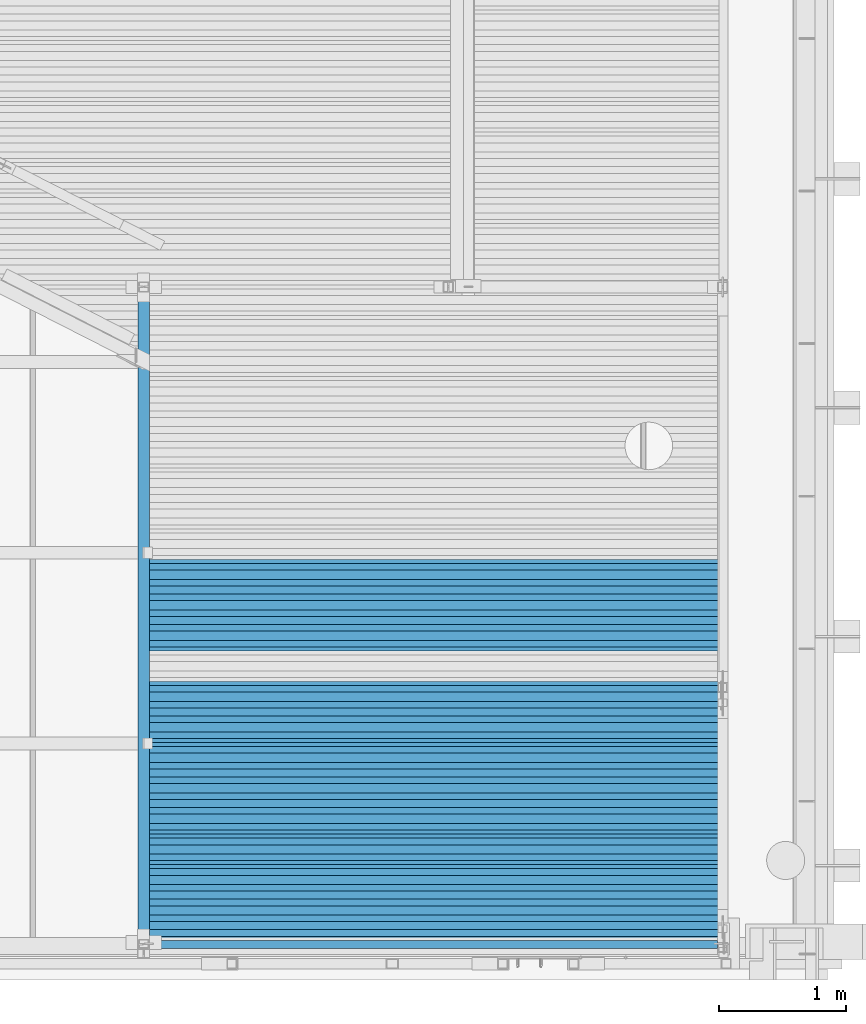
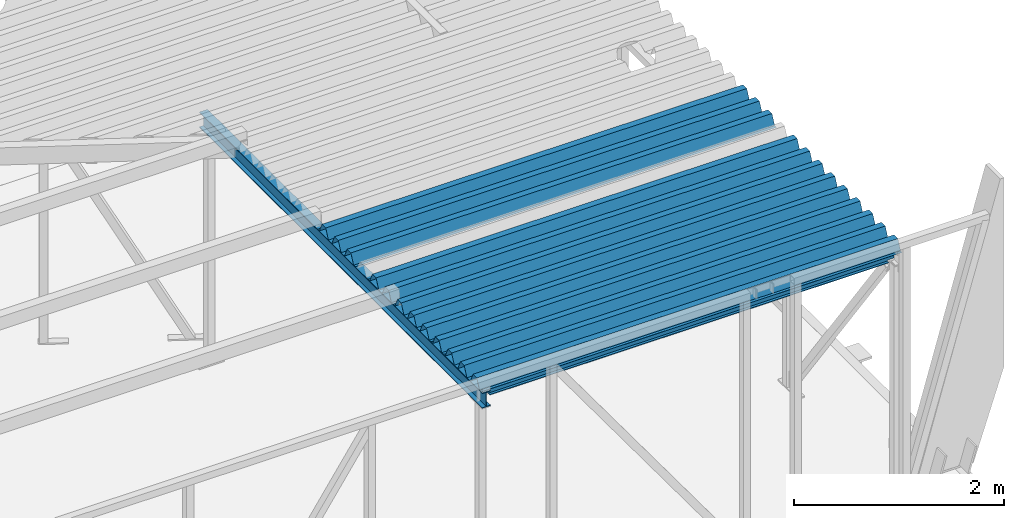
# One storey, part 7 of 30: 7 beams.
"""IFC2X3 building model written with IfcOpenShell, lengths in millimetres."""

from ifc_helpers import new_model, entity, si_unit, converted_unit, derived_unit, direction, frame, origin_with_axes, place, context, subcontext, project, spatial, faceted_brep, material, type_object, element, save


model = new_model("IFC2X3")

# Units and contexts
model_context = context("Model", 3, precision=0.01, world=frame((0.0, 4.29681676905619e-09, 0.0)), true_north=direction((4.01073788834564e-13, 1.0)))
plan_context = context("Plan", 3, precision=0.01, world=frame((0.0, 4.29681676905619e-09, 0.0)), true_north=direction((4.01073788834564e-13, 1.0)))
body_context = subcontext(model_context, "Body", "Model", "MODEL_VIEW")
ifc_project = project(units=[converted_unit("PLANEANGLEUNIT", "DEGREE", entity("IfcPositiveLengthMeasure", 0.0174532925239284), si_unit("PLANEANGLEUNIT", "RADIAN"), dimensions=[0, 0, 0, 0, 0, 0, 0]), si_unit("AREAUNIT", "SQUARE_METRE"), si_unit("LENGTHUNIT", "METRE", prefix="MILLI"), si_unit("MASSUNIT", "GRAM", prefix="KILO"), si_unit("POWERUNIT", "WATT"), si_unit("PRESSUREUNIT", "PASCAL"), si_unit("FORCEUNIT", "NEWTON", prefix="KILO"), si_unit("ELECTRICVOLTAGEUNIT", "VOLT"), si_unit("ELECTRICCURRENTUNIT", "AMPERE"), si_unit("THERMODYNAMICTEMPERATUREUNIT", "DEGREE_CELSIUS"), si_unit("TIMEUNIT", "SECOND"), si_unit("VOLUMEUNIT", "CUBIC_METRE"), derived_unit("LINEARVELOCITYUNIT", [(si_unit("LENGTHUNIT", "METRE"), 1), (si_unit("TIMEUNIT", "SECOND"), -1)]), derived_unit("VOLUMETRICFLOWRATEUNIT", [(si_unit("VOLUMEUNIT", "CUBIC_METRE"), 1), (si_unit("TIMEUNIT", "SECOND"), -1)]), derived_unit("THERMALTRANSMITTANCEUNIT", [(si_unit("POWERUNIT", "WATT"), 1), (si_unit("THERMODYNAMICTEMPERATUREUNIT", "KELVIN"), -1), (si_unit("AREAUNIT", "SQUARE_METRE"), -1)]), derived_unit("SOUNDPRESSUREUNIT", [(si_unit("PRESSUREUNIT", "PASCAL"), 1)])], contexts=[model_context, plan_context])

# Site, building, storey
site_placement = place(None, frame((0.0, -4.29681676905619e-09, 0.0), z_axis=(0.0, 0.0, 1.0), x_axis=(1.0, 0.0, 0.0)))
site = spatial("IfcSite", under=ifc_project, at=site_placement, Name="Gardermoen", CompositionType="ELEMENT")
building_placement = place(site_placement, frame((0.0, 4.29681676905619e-09, 0.0), z_axis=(0.0, 0.0, 1.0), x_axis=(1.0, 0.0, 0.0)))
building = spatial("IfcBuilding", under=site, at=building_placement, Name="TI", CompositionType="ELEMENT")
storey_placement = place(building_placement, origin_with_axes())
storey = spatial("IfcBuildingStorey", under=building, at=storey_placement, Name="F", CompositionType="ELEMENT", Elevation=0.0)

# Beams
ifc_material = material(Name="STEEL/S355J2H")
beam_type_1 = type_object("IfcBeamType", Name="PLANNJA111", PredefinedType="NOTDEFINED")
beam_1_placement = place(storey_placement, frame((606690.830439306, 691947.497611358, 213755.499847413), z_axis=(0.0, 0.0, 1.0), x_axis=(1.0, 0.0, 0.0)))
element("IfcBeam", 1, at=beam_1_placement, inside=storey, type_object=beam_type_1, material=ifc_material, Name="STÅLBJELKE", ObjectType="PLANNJA111", context=body_context, shape_type="Brep", body=[
    faceted_brep([(-7.79982656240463e-09, 360.000000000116, -54.75), (-7.21774995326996e-09, 328.133911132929, -54.75), (4635.31149585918, 328.133911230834, -54.7500000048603), (4635.31149585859, 360.000000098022, -54.7500000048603), (-2.44472175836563e-09, 276.000000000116, 55.75), (4635.31149586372, 276.000000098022, 55.7499999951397), (-1.28056854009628e-09, 204.000000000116, 55.75), (4635.31149586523, 204.000000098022, 55.7499999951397), (-4.42378222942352e-09, 151.866088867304, -54.75), (4635.31149586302, 151.866088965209, -54.7500000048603), (-3.37604433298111e-09, 88.1339111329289, -54.75), (4635.3114958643, 88.1339112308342, -54.7500000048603), (1.39698386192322e-09, 36.0000000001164, 55.75), (4635.31149586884, 36.0000000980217, 55.7499999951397), (2.56113708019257e-09, -35.9999999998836, 55.75), (4635.31149587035, -35.9999999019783, 55.7499999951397), (-5.82076609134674e-10, -88.1339111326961, -54.75), (4635.31149586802, -88.1339110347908, -54.7500000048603), (4.65661287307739e-10, -151.866088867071, -54.75), (4635.31149586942, -151.866088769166, -54.7500000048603), (5.23868948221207e-09, -203.999999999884, 55.75), (4635.31149587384, -203.999999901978, 55.7499999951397), (6.40284270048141e-09, -275.999999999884, 55.75), (4635.31149587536, -275.999999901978, 55.7499999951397), (3.25962901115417e-09, -328.133911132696, -54.75), (4635.31149587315, -328.133911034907, -54.7500000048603), (3.72529029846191e-09, -359.999999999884, -54.75), (4635.31149587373, -359.999999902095, -54.7500000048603), (3.72529029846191e-09, -359.999999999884, -55.75), (4635.31149587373, -359.999999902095, -55.7500000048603), (3.14321368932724e-09, -327.499999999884, -55.75), (4635.31149587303, -327.499999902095, -55.7500000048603), (6.40284270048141e-09, -275.366088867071, 54.75), (4635.31149587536, -275.366088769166, 54.7499999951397), (5.23868948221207e-09, -204.633911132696, 54.75), (4635.31149587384, -204.633911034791, 54.7499999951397), (3.49245965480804e-10, -152.499999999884, -55.75), (4635.3114958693, -152.499999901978, -55.7500000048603), (-6.98491930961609e-10, -87.4999999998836, -55.75), (4635.31149586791, -87.4999999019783, -55.7500000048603), (2.56113708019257e-09, -35.3660888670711, 54.75), (4635.31149587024, -35.3660887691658, 54.7499999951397), (1.39698386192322e-09, 35.3660888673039, 54.75), (4635.31149586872, 35.3660889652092, 54.7499999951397), (-3.49245965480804e-09, 87.5000000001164, -55.75), (4635.3114958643, 87.5000000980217, -55.7500000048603), (-4.54019755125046e-09, 152.500000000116, -55.75), (4635.3114958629, 152.500000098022, -55.7500000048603), (-1.28056854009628e-09, 204.633911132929, 54.75), (4635.31149586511, 204.633911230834, 54.7499999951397), (-2.44472175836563e-09, 275.366088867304, 54.75), (4635.31149586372, 275.366088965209, 54.7499999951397), (-7.33416527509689e-09, 327.500000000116, -55.75), (4635.31149585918, 327.500000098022, -55.7500000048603), (-7.79982656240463e-09, 360.000000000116, -55.75), (4635.31149585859, 360.000000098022, -55.7500000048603)], [[[0, 1, 2, 3]], [[1, 4, 5, 2]], [[4, 6, 7, 5]], [[6, 8, 9, 7]], [[8, 10, 11, 9]], [[10, 12, 13, 11]], [[12, 14, 15, 13]], [[14, 16, 17, 15]], [[16, 18, 19, 17]], [[18, 20, 21, 19]], [[20, 22, 23, 21]], [[22, 24, 25, 23]], [[24, 26, 27, 25]], [[26, 28, 29, 27]], [[28, 30, 31, 29]], [[30, 32, 33, 31]], [[32, 34, 35, 33]], [[34, 36, 37, 35]], [[36, 38, 39, 37]], [[38, 40, 41, 39]], [[40, 42, 43, 41]], [[42, 44, 45, 43]], [[44, 46, 47, 45]], [[46, 48, 49, 47]], [[48, 50, 51, 49]], [[50, 52, 53, 51]], [[52, 54, 55, 53]], [[54, 0, 3, 55]], [[5, 7, 9, 11, 13, 15, 17, 19, 21, 23, 25, 27, 29, 31, 33, 35, 37, 39, 41, 43, 45, 47, 49, 51, 53, 55, 3, 2]], [[54, 52, 50, 48, 46, 44, 42, 40, 38, 36, 34, 32, 30, 28, 26, 24, 22, 20, 18, 16, 14, 12, 10, 8, 6, 4, 1, 0]]]),
])
beam_2_placement = place(storey_placement, frame((606690.830439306, 690987.497611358, 213755.499847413), z_axis=(0.0, 0.0, 1.0), x_axis=(1.0, 0.0, 0.0)))
element("IfcBeam", 2, at=beam_2_placement, inside=storey, type_object=beam_type_1, material=ifc_material, Name="STÅLBJELKE", ObjectType="PLANNJA111", context=body_context, shape_type="Brep", body=[
    faceted_brep([(-7.79982656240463e-09, 360.000000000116, -54.75), (-7.21774995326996e-09, 328.133911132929, -54.75), (4635.31149585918, 328.133911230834, -54.7500000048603), (4635.31149585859, 360.000000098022, -54.7500000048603), (-2.44472175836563e-09, 276.000000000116, 55.75), (4635.31149586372, 276.000000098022, 55.7499999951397), (-1.28056854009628e-09, 204.000000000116, 55.75), (4635.31149586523, 204.000000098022, 55.7499999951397), (-4.42378222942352e-09, 151.866088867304, -54.75), (4635.31149586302, 151.866088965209, -54.7500000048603), (-3.37604433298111e-09, 88.1339111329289, -54.75), (4635.3114958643, 88.1339112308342, -54.7500000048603), (1.39698386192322e-09, 36.0000000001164, 55.75), (4635.31149586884, 36.0000000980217, 55.7499999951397), (2.56113708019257e-09, -35.9999999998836, 55.75), (4635.31149587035, -35.9999999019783, 55.7499999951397), (-5.82076609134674e-10, -88.1339111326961, -54.75), (4635.31149586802, -88.1339110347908, -54.7500000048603), (4.65661287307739e-10, -151.866088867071, -54.75), (4635.31149586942, -151.866088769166, -54.7500000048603), (5.23868948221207e-09, -203.999999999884, 55.75), (4635.31149587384, -203.999999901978, 55.7499999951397), (6.40284270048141e-09, -275.999999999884, 55.75), (4635.31149587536, -275.999999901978, 55.7499999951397), (3.25962901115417e-09, -328.133911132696, -54.75), (4635.31149587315, -328.133911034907, -54.7500000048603), (3.72529029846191e-09, -359.999999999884, -54.75), (4635.31149587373, -359.999999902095, -54.7500000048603), (3.72529029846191e-09, -359.999999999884, -55.75), (4635.31149587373, -359.999999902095, -55.7500000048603), (3.14321368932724e-09, -327.499999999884, -55.75), (4635.31149587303, -327.499999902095, -55.7500000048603), (6.40284270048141e-09, -275.366088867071, 54.75), (4635.31149587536, -275.366088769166, 54.7499999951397), (5.23868948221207e-09, -204.633911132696, 54.75), (4635.31149587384, -204.633911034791, 54.7499999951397), (3.49245965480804e-10, -152.499999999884, -55.75), (4635.3114958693, -152.499999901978, -55.7500000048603), (-6.98491930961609e-10, -87.4999999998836, -55.75), (4635.31149586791, -87.4999999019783, -55.7500000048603), (2.56113708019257e-09, -35.3660888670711, 54.75), (4635.31149587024, -35.3660887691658, 54.7499999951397), (1.39698386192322e-09, 35.3660888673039, 54.75), (4635.31149586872, 35.3660889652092, 54.7499999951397), (-3.49245965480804e-09, 87.5000000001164, -55.75), (4635.3114958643, 87.5000000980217, -55.7500000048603), (-4.54019755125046e-09, 152.500000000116, -55.75), (4635.3114958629, 152.500000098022, -55.7500000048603), (-1.28056854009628e-09, 204.633911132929, 54.75), (4635.31149586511, 204.633911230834, 54.7499999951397), (-2.44472175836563e-09, 275.366088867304, 54.75), (4635.31149586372, 275.366088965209, 54.7499999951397), (-7.33416527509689e-09, 327.500000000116, -55.75), (4635.31149585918, 327.500000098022, -55.7500000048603), (-7.79982656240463e-09, 360.000000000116, -55.75), (4635.31149585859, 360.000000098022, -55.7500000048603)], [[[0, 1, 2, 3]], [[1, 4, 5, 2]], [[4, 6, 7, 5]], [[6, 8, 9, 7]], [[8, 10, 11, 9]], [[10, 12, 13, 11]], [[12, 14, 15, 13]], [[14, 16, 17, 15]], [[16, 18, 19, 17]], [[18, 20, 21, 19]], [[20, 22, 23, 21]], [[22, 24, 25, 23]], [[24, 26, 27, 25]], [[26, 28, 29, 27]], [[28, 30, 31, 29]], [[30, 32, 33, 31]], [[32, 34, 35, 33]], [[34, 36, 37, 35]], [[36, 38, 39, 37]], [[38, 40, 41, 39]], [[40, 42, 43, 41]], [[42, 44, 45, 43]], [[44, 46, 47, 45]], [[46, 48, 49, 47]], [[48, 50, 51, 49]], [[50, 52, 53, 51]], [[52, 54, 55, 53]], [[54, 0, 3, 55]], [[5, 7, 9, 11, 13, 15, 17, 19, 21, 23, 25, 27, 29, 31, 33, 35, 37, 39, 41, 43, 45, 47, 49, 51, 53, 55, 3, 2]], [[54, 52, 50, 48, 46, 44, 42, 40, 38, 36, 34, 32, 30, 28, 26, 24, 22, 20, 18, 16, 14, 12, 10, 8, 6, 4, 1, 0]]]),
])
beam_3_placement = place(storey_placement, frame((606690.830439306, 690507.497611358, 213755.499847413), z_axis=(0.0, 0.0, 1.0), x_axis=(1.0, 0.0, 0.0)))
element("IfcBeam", 3, at=beam_3_placement, inside=storey, type_object=beam_type_1, material=ifc_material, Name="STÅLBJELKE", ObjectType="PLANNJA111", context=body_context, shape_type="Brep", body=[
    faceted_brep([(-7.79982656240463e-09, 360.000000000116, -54.75), (-7.21774995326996e-09, 328.133911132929, -54.75), (4635.31149585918, 328.133911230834, -54.7500000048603), (4635.31149585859, 360.000000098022, -54.7500000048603), (-2.44472175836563e-09, 276.000000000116, 55.75), (4635.31149586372, 276.000000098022, 55.7499999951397), (-1.28056854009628e-09, 204.000000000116, 55.75), (4635.31149586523, 204.000000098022, 55.7499999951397), (-4.42378222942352e-09, 151.866088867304, -54.75), (4635.31149586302, 151.866088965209, -54.7500000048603), (-3.37604433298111e-09, 88.1339111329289, -54.75), (4635.3114958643, 88.1339112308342, -54.7500000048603), (1.39698386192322e-09, 36.0000000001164, 55.75), (4635.31149586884, 36.0000000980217, 55.7499999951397), (2.56113708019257e-09, -35.9999999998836, 55.75), (4635.31149587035, -35.9999999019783, 55.7499999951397), (-5.82076609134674e-10, -88.1339111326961, -54.75), (4635.31149586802, -88.1339110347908, -54.7500000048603), (4.65661287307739e-10, -151.866088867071, -54.75), (4635.31149586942, -151.866088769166, -54.7500000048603), (5.23868948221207e-09, -203.999999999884, 55.75), (4635.31149587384, -203.999999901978, 55.7499999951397), (6.40284270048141e-09, -275.999999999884, 55.75), (4635.31149587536, -275.999999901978, 55.7499999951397), (3.25962901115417e-09, -328.133911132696, -54.75), (4635.31149587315, -328.133911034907, -54.7500000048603), (3.72529029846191e-09, -359.999999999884, -54.75), (4635.31149587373, -359.999999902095, -54.7500000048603), (3.72529029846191e-09, -359.999999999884, -55.75), (4635.31149587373, -359.999999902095, -55.7500000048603), (3.14321368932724e-09, -327.499999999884, -55.75), (4635.31149587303, -327.499999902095, -55.7500000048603), (6.40284270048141e-09, -275.366088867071, 54.75), (4635.31149587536, -275.366088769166, 54.7499999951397), (5.23868948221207e-09, -204.633911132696, 54.75), (4635.31149587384, -204.633911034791, 54.7499999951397), (3.49245965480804e-10, -152.499999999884, -55.75), (4635.3114958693, -152.499999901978, -55.7500000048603), (-6.98491930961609e-10, -87.4999999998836, -55.75), (4635.31149586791, -87.4999999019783, -55.7500000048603), (2.56113708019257e-09, -35.3660888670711, 54.75), (4635.31149587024, -35.3660887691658, 54.7499999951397), (1.39698386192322e-09, 35.3660888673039, 54.75), (4635.31149586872, 35.3660889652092, 54.7499999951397), (-3.49245965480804e-09, 87.5000000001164, -55.75), (4635.3114958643, 87.5000000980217, -55.7500000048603), (-4.54019755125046e-09, 152.500000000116, -55.75), (4635.3114958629, 152.500000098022, -55.7500000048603), (-1.28056854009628e-09, 204.633911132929, 54.75), (4635.31149586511, 204.633911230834, 54.7499999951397), (-2.44472175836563e-09, 275.366088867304, 54.75), (4635.31149586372, 275.366088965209, 54.7499999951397), (-7.33416527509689e-09, 327.500000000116, -55.75), (4635.31149585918, 327.500000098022, -55.7500000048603), (-7.79982656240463e-09, 360.000000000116, -55.75), (4635.31149585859, 360.000000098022, -55.7500000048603)], [[[0, 1, 2, 3]], [[1, 4, 5, 2]], [[4, 6, 7, 5]], [[6, 8, 9, 7]], [[8, 10, 11, 9]], [[10, 12, 13, 11]], [[12, 14, 15, 13]], [[14, 16, 17, 15]], [[16, 18, 19, 17]], [[18, 20, 21, 19]], [[20, 22, 23, 21]], [[22, 24, 25, 23]], [[24, 26, 27, 25]], [[26, 28, 29, 27]], [[28, 30, 31, 29]], [[30, 32, 33, 31]], [[32, 34, 35, 33]], [[34, 36, 37, 35]], [[36, 38, 39, 37]], [[38, 40, 41, 39]], [[40, 42, 43, 41]], [[42, 44, 45, 43]], [[44, 46, 47, 45]], [[46, 48, 49, 47]], [[48, 50, 51, 49]], [[50, 52, 53, 51]], [[52, 54, 55, 53]], [[54, 0, 3, 55]], [[5, 7, 9, 11, 13, 15, 17, 19, 21, 23, 25, 27, 29, 31, 33, 35, 37, 39, 41, 43, 45, 47, 49, 51, 53, 55, 3, 2]], [[54, 52, 50, 48, 46, 44, 42, 40, 38, 36, 34, 32, 30, 28, 26, 24, 22, 20, 18, 16, 14, 12, 10, 8, 6, 4, 1, 0]]]),
])
beam_4_placement = place(storey_placement, frame((606690.830439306, 690027.497611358, 213755.499847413), z_axis=(0.0, 0.0, 1.0), x_axis=(1.0, 0.0, 0.0)))
element("IfcBeam", 4, at=beam_4_placement, inside=storey, type_object=beam_type_1, material=ifc_material, Name="STÅLBJELKE", ObjectType="PLANNJA111", context=body_context, shape_type="Brep", body=[
    faceted_brep([(-7.79982656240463e-09, 360.000000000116, -54.75), (-7.21774995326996e-09, 328.133911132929, -54.75), (4635.31149585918, 328.133911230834, -54.7500000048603), (4635.31149585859, 360.000000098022, -54.7500000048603), (-2.44472175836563e-09, 276.000000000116, 55.75), (4635.31149586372, 276.000000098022, 55.7499999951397), (-1.28056854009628e-09, 204.000000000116, 55.75), (4635.31149586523, 204.000000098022, 55.7499999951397), (-4.42378222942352e-09, 151.866088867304, -54.75), (4635.31149586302, 151.866088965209, -54.7500000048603), (-3.37604433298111e-09, 88.1339111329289, -54.75), (4635.3114958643, 88.1339112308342, -54.7500000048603), (1.39698386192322e-09, 36.0000000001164, 55.75), (4635.31149586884, 36.0000000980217, 55.7499999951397), (2.56113708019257e-09, -35.9999999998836, 55.75), (4635.31149587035, -35.9999999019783, 55.7499999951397), (-5.82076609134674e-10, -88.1339111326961, -54.75), (4635.31149586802, -88.1339110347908, -54.7500000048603), (4.65661287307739e-10, -151.866088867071, -54.75), (4635.31149586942, -151.866088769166, -54.7500000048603), (5.23868948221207e-09, -203.999999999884, 55.75), (4635.31149587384, -203.999999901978, 55.7499999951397), (6.40284270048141e-09, -275.999999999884, 55.75), (4635.31149587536, -275.999999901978, 55.7499999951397), (3.25962901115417e-09, -328.133911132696, -54.75), (4635.31149587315, -328.133911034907, -54.7500000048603), (3.72529029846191e-09, -359.999999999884, -54.75), (4635.31149587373, -359.999999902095, -54.7500000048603), (3.72529029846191e-09, -359.999999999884, -55.75), (4635.31149587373, -359.999999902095, -55.7500000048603), (3.14321368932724e-09, -327.499999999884, -55.75), (4635.31149587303, -327.499999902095, -55.7500000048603), (6.40284270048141e-09, -275.366088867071, 54.75), (4635.31149587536, -275.366088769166, 54.7499999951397), (5.23868948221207e-09, -204.633911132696, 54.75), (4635.31149587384, -204.633911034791, 54.7499999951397), (3.49245965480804e-10, -152.499999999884, -55.75), (4635.3114958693, -152.499999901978, -55.7500000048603), (-6.98491930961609e-10, -87.4999999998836, -55.75), (4635.31149586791, -87.4999999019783, -55.7500000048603), (2.56113708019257e-09, -35.3660888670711, 54.75), (4635.31149587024, -35.3660887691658, 54.7499999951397), (1.39698386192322e-09, 35.3660888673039, 54.75), (4635.31149586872, 35.3660889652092, 54.7499999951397), (-3.49245965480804e-09, 87.5000000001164, -55.75), (4635.3114958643, 87.5000000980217, -55.7500000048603), (-4.54019755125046e-09, 152.500000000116, -55.75), (4635.3114958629, 152.500000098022, -55.7500000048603), (-1.28056854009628e-09, 204.633911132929, 54.75), (4635.31149586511, 204.633911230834, 54.7499999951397), (-2.44472175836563e-09, 275.366088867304, 54.75), (4635.31149586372, 275.366088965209, 54.7499999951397), (-7.33416527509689e-09, 327.500000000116, -55.75), (4635.31149585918, 327.500000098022, -55.7500000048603), (-7.79982656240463e-09, 360.000000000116, -55.75), (4635.31149585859, 360.000000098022, -55.7500000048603)], [[[0, 1, 2, 3]], [[1, 4, 5, 2]], [[4, 6, 7, 5]], [[6, 8, 9, 7]], [[8, 10, 11, 9]], [[10, 12, 13, 11]], [[12, 14, 15, 13]], [[14, 16, 17, 15]], [[16, 18, 19, 17]], [[18, 20, 21, 19]], [[20, 22, 23, 21]], [[22, 24, 25, 23]], [[24, 26, 27, 25]], [[26, 28, 29, 27]], [[28, 30, 31, 29]], [[30, 32, 33, 31]], [[32, 34, 35, 33]], [[34, 36, 37, 35]], [[36, 38, 39, 37]], [[38, 40, 41, 39]], [[40, 42, 43, 41]], [[42, 44, 45, 43]], [[44, 46, 47, 45]], [[46, 48, 49, 47]], [[48, 50, 51, 49]], [[50, 52, 53, 51]], [[52, 54, 55, 53]], [[54, 0, 3, 55]], [[5, 7, 9, 11, 13, 15, 17, 19, 21, 23, 25, 27, 29, 31, 33, 35, 37, 39, 41, 43, 45, 47, 49, 51, 53, 55, 3, 2]], [[54, 52, 50, 48, 46, 44, 42, 40, 38, 36, 34, 32, 30, 28, 26, 24, 22, 20, 18, 16, 14, 12, 10, 8, 6, 4, 1, 0]]]),
])
beam_5_placement = place(storey_placement, frame((606690.830439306, 689547.497611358, 213755.499847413), z_axis=(0.0, 0.0, 1.0), x_axis=(1.0, 0.0, 0.0)))
element("IfcBeam", 5, at=beam_5_placement, inside=storey, type_object=beam_type_1, material=ifc_material, Name="STÅLBJELKE", ObjectType="PLANNJA111", context=body_context, shape_type="Brep", body=[
    faceted_brep([(-7.79982656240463e-09, 360.000000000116, -54.75), (-7.21774995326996e-09, 328.133911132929, -54.75), (4635.31149585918, 328.133911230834, -54.7500000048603), (4635.31149585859, 360.000000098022, -54.7500000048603), (-2.44472175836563e-09, 276.000000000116, 55.75), (4635.31149586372, 276.000000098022, 55.7499999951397), (-1.28056854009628e-09, 204.000000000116, 55.75), (4635.31149586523, 204.000000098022, 55.7499999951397), (-4.42378222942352e-09, 151.866088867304, -54.75), (4635.31149586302, 151.866088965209, -54.7500000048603), (-3.37604433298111e-09, 88.1339111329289, -54.75), (4635.3114958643, 88.1339112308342, -54.7500000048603), (1.39698386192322e-09, 36.0000000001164, 55.75), (4635.31149586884, 36.0000000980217, 55.7499999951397), (2.56113708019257e-09, -35.9999999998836, 55.75), (4635.31149587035, -35.9999999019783, 55.7499999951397), (-5.82076609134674e-10, -88.1339111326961, -54.75), (4635.31149586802, -88.1339110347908, -54.7500000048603), (4.65661287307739e-10, -151.866088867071, -54.75), (4635.31149586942, -151.866088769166, -54.7500000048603), (5.23868948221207e-09, -203.999999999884, 55.75), (4635.31149587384, -203.999999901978, 55.7499999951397), (6.40284270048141e-09, -275.999999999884, 55.75), (4635.31149587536, -275.999999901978, 55.7499999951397), (3.25962901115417e-09, -328.133911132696, -54.75), (4635.31149587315, -328.133911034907, -54.7500000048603), (3.72529029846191e-09, -359.999999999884, -54.75), (4635.31149587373, -359.999999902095, -54.7500000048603), (3.72529029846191e-09, -359.999999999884, -55.75), (4635.31149587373, -359.999999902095, -55.7500000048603), (3.14321368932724e-09, -327.499999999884, -55.75), (4635.31149587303, -327.499999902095, -55.7500000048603), (6.40284270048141e-09, -275.366088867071, 54.75), (4635.31149587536, -275.366088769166, 54.7499999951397), (5.23868948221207e-09, -204.633911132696, 54.75), (4635.31149587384, -204.633911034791, 54.7499999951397), (3.49245965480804e-10, -152.499999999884, -55.75), (4635.3114958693, -152.499999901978, -55.7500000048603), (-6.98491930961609e-10, -87.4999999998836, -55.75), (4635.31149586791, -87.4999999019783, -55.7500000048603), (2.56113708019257e-09, -35.3660888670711, 54.75), (4635.31149587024, -35.3660887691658, 54.7499999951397), (1.39698386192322e-09, 35.3660888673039, 54.75), (4635.31149586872, 35.3660889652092, 54.7499999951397), (-3.49245965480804e-09, 87.5000000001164, -55.75), (4635.3114958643, 87.5000000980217, -55.7500000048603), (-4.54019755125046e-09, 152.500000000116, -55.75), (4635.3114958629, 152.500000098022, -55.7500000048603), (-1.28056854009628e-09, 204.633911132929, 54.75), (4635.31149586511, 204.633911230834, 54.7499999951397), (-2.44472175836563e-09, 275.366088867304, 54.75), (4635.31149586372, 275.366088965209, 54.7499999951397), (-7.33416527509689e-09, 327.500000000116, -55.75), (4635.31149585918, 327.500000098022, -55.7500000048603), (-7.79982656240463e-09, 360.000000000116, -55.75), (4635.31149585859, 360.000000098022, -55.7500000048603)], [[[0, 1, 2, 3]], [[1, 4, 5, 2]], [[4, 6, 7, 5]], [[6, 8, 9, 7]], [[8, 10, 11, 9]], [[10, 12, 13, 11]], [[12, 14, 15, 13]], [[14, 16, 17, 15]], [[16, 18, 19, 17]], [[18, 20, 21, 19]], [[20, 22, 23, 21]], [[22, 24, 25, 23]], [[24, 26, 27, 25]], [[26, 28, 29, 27]], [[28, 30, 31, 29]], [[30, 32, 33, 31]], [[32, 34, 35, 33]], [[34, 36, 37, 35]], [[36, 38, 39, 37]], [[38, 40, 41, 39]], [[40, 42, 43, 41]], [[42, 44, 45, 43]], [[44, 46, 47, 45]], [[46, 48, 49, 47]], [[48, 50, 51, 49]], [[50, 52, 53, 51]], [[52, 54, 55, 53]], [[54, 0, 3, 55]], [[5, 7, 9, 11, 13, 15, 17, 19, 21, 23, 25, 27, 29, 31, 33, 35, 37, 39, 41, 43, 45, 47, 49, 51, 53, 55, 3, 2]], [[54, 52, 50, 48, 46, 44, 42, 40, 38, 36, 34, 32, 30, 28, 26, 24, 22, 20, 18, 16, 14, 12, 10, 8, 6, 4, 1, 0]]]),
])
beam_type_2 = type_object("IfcBeamType", Name="IPE120", PredefinedType="NOTDEFINED")
beam_6_placement = place(storey_placement, frame((611284.636545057, 689279.998014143, 213639.999913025), z_axis=(0.0, 0.0, 1.0), x_axis=(-0.999999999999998, 5.80000057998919e-08, 0.0)))
element("IfcBeam", 6, at=beam_6_placement, inside=storey, type_object=beam_type_2, material=ifc_material, Name="STÅLBJELKE", ObjectType="IPE120", context=body_context, shape_type="Brep", body=[
    faceted_brep([(-2.21189111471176e-09, -2.20000004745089, -45.0000122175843), (-2.56113708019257e-09, 2.20000004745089, -45.0000122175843), (64.355318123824, 2.20000005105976, -45.0000118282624), (64.3553161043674, -2.20000004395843, -45.0000118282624), (72.3553138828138, -2.20000004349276, -53.000011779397), (72.3553159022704, 2.20000005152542, -53.000011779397), (72.3553157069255, 2.20000005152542, -53.6999998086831), (72.3553293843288, 32.0000000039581, -53.6999998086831), (72.355327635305, 32.0000000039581, -59.9999999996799), (72.3552982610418, -31.9999999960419, -59.9999999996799), (72.3553000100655, -31.9999999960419, -53.6999998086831), (72.3553136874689, -2.20000004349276, -53.6999998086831), (4487.81281746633, 32.0000002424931, 53.699999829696), (4487.8128057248, 2.200000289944, 53.699999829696), (34.1471932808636, 2.20000004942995, 53.6999998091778), (34.1471795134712, 32.0000000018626, 53.6999998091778), (26.1471953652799, -2.2000000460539, 44.9997853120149), (26.147193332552, 2.20000004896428, 44.9997853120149), (2.21189111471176e-09, 2.20000004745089, 44.9997851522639), (2.56113708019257e-09, -2.20000004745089, 44.9997851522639), (34.1471953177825, -2.20000004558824, 52.9997853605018), (34.1471932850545, 2.20000004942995, 52.9997853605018), (4487.81279221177, -31.9999997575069, 60.0000000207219), (4487.81281742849, 32.0000002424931, 60.0000000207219), (34.1471794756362, 32.0000000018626, 60.0000000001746), (34.1472090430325, -31.9999999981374, 60.0000000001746), (4487.81279224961, -31.9999997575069, 53.699999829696), (34.1472090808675, -31.9999999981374, 53.6999998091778), (4487.81280399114, -2.19999980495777, 53.699999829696), (34.1471953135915, -2.20000004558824, 53.6999998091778), (4487.81280399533, -2.19999980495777, 52.9998123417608), (4487.81280572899, 2.200000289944, 52.9998123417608), (4495.81280404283, -2.19999980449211, 44.9998123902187), (4495.81280577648, 2.20000029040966, 44.9998123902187), (4535.66503562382, -2.19999980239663, 44.9998126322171), (4535.66503562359, 2.20000029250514, 44.9998126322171), (4535.66503561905, -2.19999980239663, -44.9999848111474), (4535.66503561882, 2.20000029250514, -44.9999848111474), (4471.3027907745, -2.19999980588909, -44.9999851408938), (4471.30279279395, 2.20000028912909, -44.9999851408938), (4463.3027908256, -2.19999980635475, -52.9999851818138), (4463.30279284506, 2.20000028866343, -52.9999851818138), (4463.30279083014, -2.19999980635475, -53.6999997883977), (4463.30277715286, -31.9999997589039, -53.6999997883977), (4463.30277719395, -31.9999997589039, -59.9999999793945), (4463.3028065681, 32.0000002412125, -59.9999999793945), (4463.302806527, 32.0000002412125, -53.6999997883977), (4463.3027928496, 2.20000028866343, -53.6999997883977)], [[[0, 1, 2, 3]], [[4, 5, 6, 7, 8, 9, 10, 11]], [[3, 2, 5, 4]], [[12, 13, 14, 15]], [[16, 17, 18, 19]], [[20, 21, 17, 16]], [[22, 23, 24, 25]], [[26, 22, 25, 27]], [[28, 26, 27, 29]], [[25, 24, 15, 14, 21, 20, 29, 27]], [[23, 12, 15, 24]], [[22, 26, 28, 30, 31, 13, 12, 23]], [[32, 33, 31, 30]], [[34, 35, 33, 32]], [[36, 37, 35, 34]], [[36, 38, 39, 37]], [[40, 41, 39, 38]], [[42, 43, 44, 45, 46, 47, 41, 40]], [[43, 42, 11, 10]], [[44, 43, 10, 9]], [[45, 44, 9, 8]], [[46, 45, 8, 7]], [[47, 46, 7, 6]], [[1, 18, 17, 21, 14, 13, 31, 33, 35, 37, 39, 41, 47, 6, 5, 2]], [[19, 18, 1, 0]], [[42, 40, 38, 36, 34, 32, 30, 28, 29, 20, 16, 19, 0, 3, 4, 11]]]),
])
beam_type_3 = type_object("IfcBeamType", Name="IPE180", PredefinedType="NOTDEFINED")
beam_7_placement = place(storey_placement, frame((606736.34057271, 694560.071585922, 213609.999847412), z_axis=(1.60801168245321e-15, 1.000007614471e-09, 1.0), x_axis=(-1.60799943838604e-06, -0.999999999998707, 1.00000761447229e-09)))
element("IfcBeam", 7, at=beam_7_placement, inside=storey, type_object=beam_type_3, material=ifc_material, Name="STÅLBJELKE", ObjectType="IPE180", context=body_context, shape_type="Brep", body=[
    faceted_brep([(4.19095158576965e-09, 45.5000000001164, -90.0000000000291), (3.84170562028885e-09, 45.5000000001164, -82.0000000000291), (5392.5740600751, 45.5000003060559, -82.0), (5392.5740600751, 45.5000003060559, -90.0), (3.84170562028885e-09, 2.65000009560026, -82.0000000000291), (5392.57406007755, 2.65000040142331, -82.0), (-3.84170562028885e-09, 2.65000009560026, 81.9999999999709), (5392.57406007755, 2.65000040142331, 82.0), (-3.84170562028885e-09, 45.5000000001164, 82.0), (5392.5740600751, 45.5000003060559, 82.0), (-4.19095158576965e-09, 45.5000000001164, 90.0), (5392.5740600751, 45.5000003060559, 90.0), (-4.07453626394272e-09, -45.5, 89.9999999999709), (5392.57406008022, -45.4999996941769, 90.0), (-3.72529029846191e-09, -45.5, 81.9999999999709), (5392.57406008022, -45.4999996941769, 82.0), (-3.72529029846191e-09, -2.65000009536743, 81.9999999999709), (5392.5740600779, -2.64999978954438, 82.0), (3.95812094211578e-09, -2.65000009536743, -82.0000000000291), (5392.5740600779, -2.64999978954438, -82.0), (3.95812094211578e-09, -45.5, -82.0000000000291), (5392.57406008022, -45.4999996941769, -82.0), (4.30736690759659e-09, -45.5, -90.0000000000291), (5392.57406008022, -45.4999996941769, -90.0)], [[[0, 1, 2, 3]], [[1, 4, 5, 2]], [[4, 6, 7, 5]], [[6, 8, 9, 7]], [[8, 10, 11, 9]], [[10, 12, 13, 11]], [[12, 14, 15, 13]], [[14, 16, 17, 15]], [[16, 18, 19, 17]], [[18, 20, 21, 19]], [[20, 22, 23, 21]], [[22, 0, 3, 23]], [[5, 7, 9, 11, 13, 15, 17, 19, 21, 23, 3, 2]], [[22, 20, 18, 16, 14, 12, 10, 8, 6, 4, 1, 0]]]),
])

save(model, "model.ifc")
